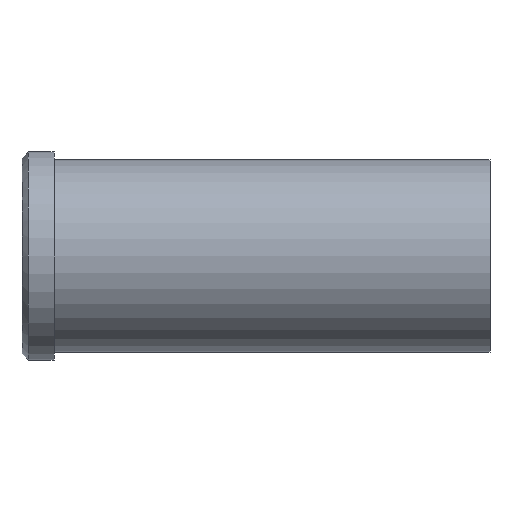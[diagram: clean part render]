
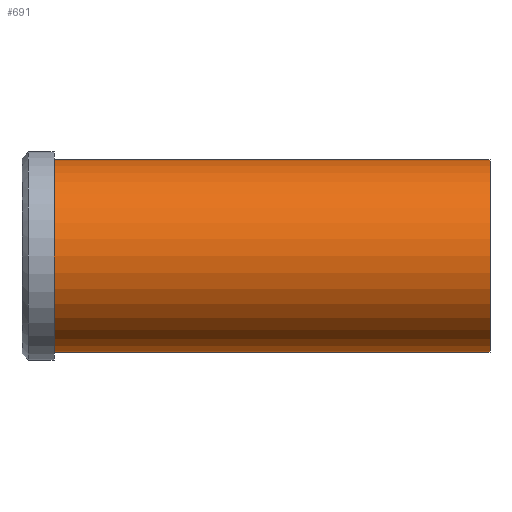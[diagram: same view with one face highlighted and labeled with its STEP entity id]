
A CAD part, front view. The second image highlights one B-rep face of the part: STEP entity #691.
In plain terms, the highlighted cylindrical face has radius 30 mm (diameter 60 mm), a partial arc.
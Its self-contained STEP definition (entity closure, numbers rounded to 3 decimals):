
#501=CARTESIAN_POINT('Vertex',(0.,0.,-30.)) ;
#506=CARTESIAN_POINT('Axis2P3D Location',(0.,0.,0.)) ;
#510=CARTESIAN_POINT('Vertex',(0.,-30.,0.)) ;
#513=CARTESIAN_POINT('Axis2P3D Location',(0.,0.,0.)) ;
#517=CARTESIAN_POINT('Vertex',(0.,0.,30.)) ;
#631=CARTESIAN_POINT('Line Origine',(136.,0.,30.)) ;
#635=CARTESIAN_POINT('Vertex',(136.,0.,30.)) ;
#649=CARTESIAN_POINT('Vertex',(136.,0.,-30.)) ;
#652=CARTESIAN_POINT('Line Origine',(136.,0.,-30.)) ;
#666=CARTESIAN_POINT('Axis2P3D Location',(136.,0.,0.)) ;
#671=CARTESIAN_POINT('Axis2P3D Location',(136.,0.,0.)) ;
#675=CARTESIAN_POINT('Vertex',(136.,-30.,0.)) ;
#678=CARTESIAN_POINT('Axis2P3D Location',(136.,0.,0.)) ;
#507=DIRECTION('Axis2P3D Direction',(1.,0.,-0.)) ;
#514=DIRECTION('Axis2P3D Direction',(1.,0.,-0.)) ;
#632=DIRECTION('Vector Direction',(-1.,0.,0.)) ;
#653=DIRECTION('Vector Direction',(-1.,0.,0.)) ;
#667=DIRECTION('Axis2P3D Direction',(-1.,-0.,-0.)) ;
#668=DIRECTION('Axis2P3D XDirection',(0.,0.,-1.)) ;
#672=DIRECTION('Axis2P3D Direction',(-1.,-0.,-0.)) ;
#679=DIRECTION('Axis2P3D Direction',(-1.,-0.,-0.)) ;
#508=AXIS2_PLACEMENT_3D('Circle Axis2P3D',#506,#507,$) ;
#515=AXIS2_PLACEMENT_3D('Circle Axis2P3D',#513,#514,$) ;
#669=AXIS2_PLACEMENT_3D('Cylinder Axis2P3D',#666,#667,#668) ;
#673=AXIS2_PLACEMENT_3D('Circle Axis2P3D',#671,#672,$) ;
#680=AXIS2_PLACEMENT_3D('Circle Axis2P3D',#678,#679,$) ;
#684=ORIENTED_EDGE('',*,*,#656,.T.) ;
#685=ORIENTED_EDGE('',*,*,#677,.F.) ;
#686=ORIENTED_EDGE('',*,*,#682,.F.) ;
#687=ORIENTED_EDGE('',*,*,#637,.T.) ;
#688=ORIENTED_EDGE('',*,*,#519,.T.) ;
#689=ORIENTED_EDGE('',*,*,#512,.T.) ;
#633=VECTOR('Line Direction',#632,1.) ;
#654=VECTOR('Line Direction',#653,1.) ;
#691=ADVANCED_FACE('353-50X146',(#690),#670,.T.) ;
#509=CIRCLE('generated circle',#508,30.) ;
#516=CIRCLE('generated circle',#515,30.) ;
#674=CIRCLE('generated circle',#673,30.) ;
#681=CIRCLE('generated circle',#680,30.) ;
#670=CYLINDRICAL_SURFACE('generated cylinder',#669,30.) ;
#512=EDGE_CURVE('',#511,#502,#509,.T.) ;
#519=EDGE_CURVE('',#518,#511,#516,.T.) ;
#637=EDGE_CURVE('',#636,#518,#634,.T.) ;
#656=EDGE_CURVE('',#502,#650,#655,.F.) ;
#677=EDGE_CURVE('',#676,#650,#674,.F.) ;
#682=EDGE_CURVE('',#636,#676,#681,.F.) ;
#683=EDGE_LOOP('',(#684,#685,#686,#687,#688,#689)) ;
#690=FACE_OUTER_BOUND('',#683,.T.) ;
#634=LINE('Line',#631,#633) ;
#655=LINE('Line',#652,#654) ;
#502=VERTEX_POINT('',#501) ;
#511=VERTEX_POINT('',#510) ;
#518=VERTEX_POINT('',#517) ;
#636=VERTEX_POINT('',#635) ;
#650=VERTEX_POINT('',#649) ;
#676=VERTEX_POINT('',#675) ;
